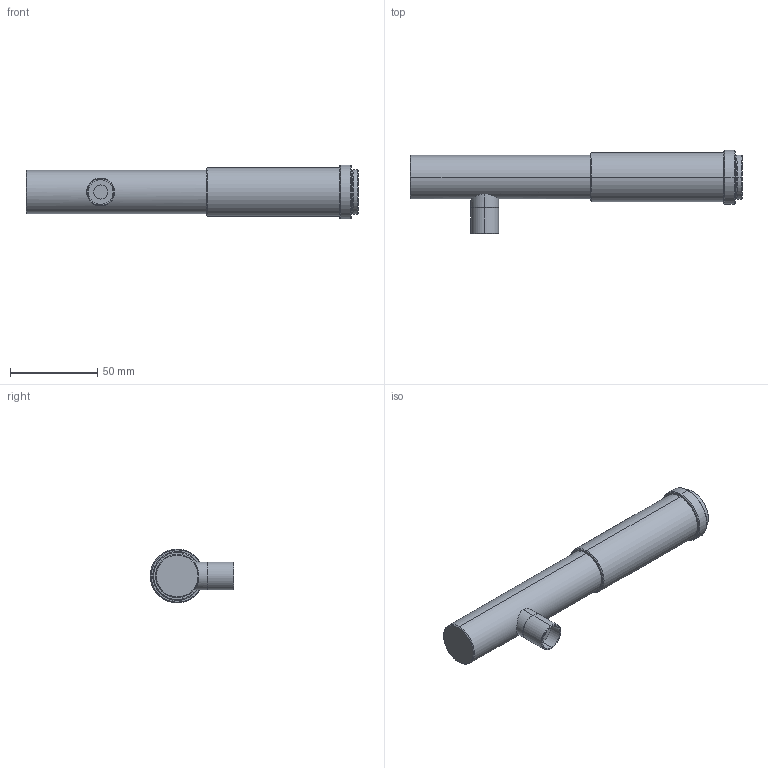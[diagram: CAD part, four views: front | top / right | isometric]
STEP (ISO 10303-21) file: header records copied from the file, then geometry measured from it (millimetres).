
FILE_DESCRIPTION (( 'STEP AP203' ), '1' );
FILE_NAME ('VS-TCM7-50CO.STEP', '2019-02-04T00:04:34', ( '' ), ( '' ), 'SwSTEP 2.0', 'SolidWorks 2018', '' );
FILE_SCHEMA (( 'CONFIG_CONTROL_DESIGN' ));
Length unit declared in the file: millimetre
Products named in the file (1): VS-TCM7-50CO
Bounding box: 190.61 x 48 x 31 mm (x, y, z)
Volume: 107380.1 mm3; surface area: 18827.3 mm2
Topology: 1 solids, 1 shells, 44 faces, 86 edges, 50 vertices
Faces by surface type: cone 20, cylinder 16, plane 8
Entity records: 1279 total; most frequent: CARTESIAN_POINT 265, DIRECTION 222, ORIENTED_EDGE 172, AXIS2_PLACEMENT_3D 93, EDGE_CURVE 86, EDGE_LOOP 50, VERTEX_POINT 50, CIRCLE 48
